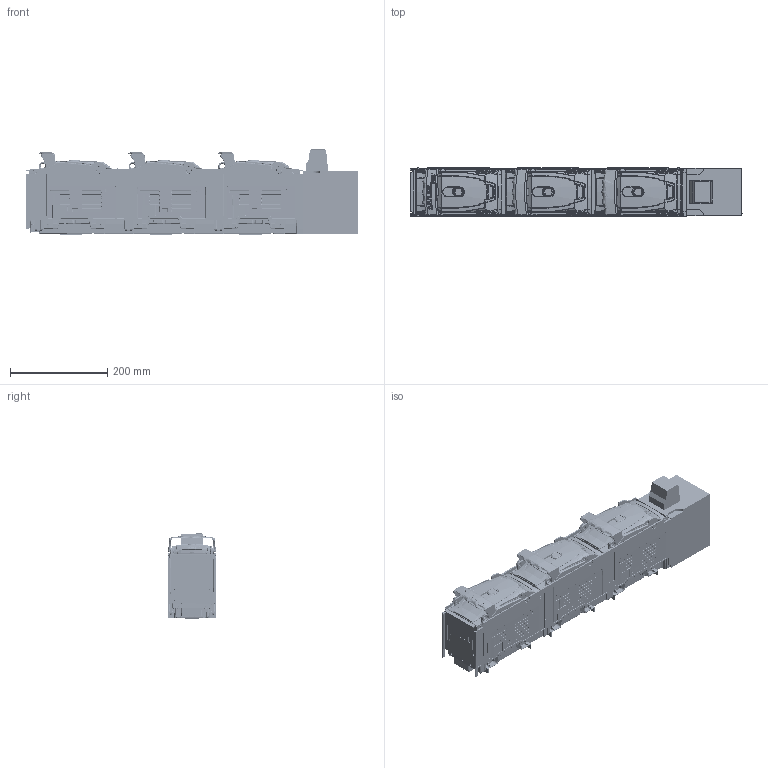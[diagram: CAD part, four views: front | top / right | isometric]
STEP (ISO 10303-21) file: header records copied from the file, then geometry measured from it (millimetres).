
FILE_DESCRIPTION(/* description */ (''),/* implementation_level */ '2;1');
FILE_NAME(/* name */ 'ARS 400-1-2V.stp',/* time_stamp */ '2018-07-16T09:23:58+02:00',/* author */ (''),/* organization */ (''),/* preprocessor_version */ 'ST-DEVELOPER v16',/* originating_system */ 'SIEMENS PLM Software NX 10.0',/* authorisation */ '');
FILE_SCHEMA (('AUTOMOTIVE_DESIGN { 1 0 10303 214 3 1 1 1 }'));
Products named in the file (1): 710_0AD4EC05y3fg
Bounding box: 684.48 x 99.58 x 175.34 mm (x, y, z)
Volume: 7696786.5 mm3; surface area: 680218.4 mm2
Topology: 1 solids, 14 shells, 13408 faces, 35001 edges, 21520 vertices
Faces by surface type: plane 4910, cylinder 3686, bspline 3656, cone 412, torus 387, sphere 271, extrusion 86
Full cylindrical faces by diameter (mm): 1.7 x12, 2.263 x2, 2.5 x3, 3.5 x4, 3.7 x4, 4.9 x3, 5 x1, 5.2 x3, 6 x1, 12 x6, 14 x1
Entity records: 555973 total; most frequent: CARTESIAN_POINT 265650, ORIENTED_EDGE 69086, DIRECTION 49418, EDGE_CURVE 34543, VERTEX_POINT 21455, VECTOR 16588, LINE 16502, AXIS2_PLACEMENT_3D 16415
